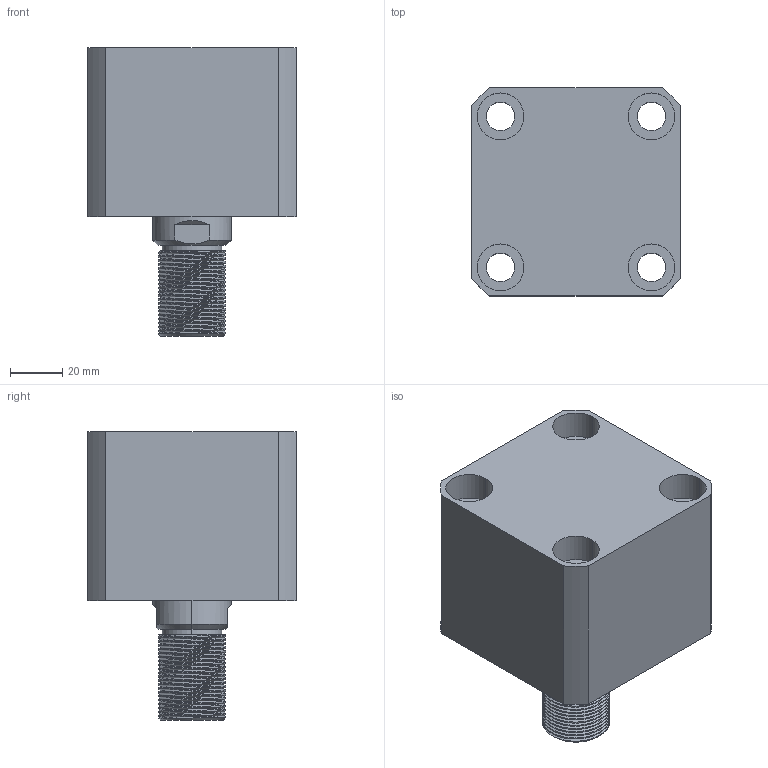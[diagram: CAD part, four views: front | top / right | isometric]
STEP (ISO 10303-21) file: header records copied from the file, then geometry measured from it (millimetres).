
FILE_DESCRIPTION (( 'STEP AP203' ), '1' );
FILE_NAME ('CHTB-SD50-5W.STEP', '2018-05-18T11:27:44', ( '' ), ( '' ), 'SwSTEP 2.0', 'SolidWorks 2015', '' );
FILE_SCHEMA (( 'CONFIG_CONTROL_DESIGN' ));
Length unit declared in the file: millimetre
Products named in the file (4): CHTM-SD50QG; 活塞杆SD50-5W; CHTB-SD50-5W; 掛极SD50-5W
Assembly tree (3 placements, depth 2):
  CHTB-SD50-5W
    掛极SD50-5W
    活塞杆SD50-5W
    CHTM-SD50QG
Bounding box: 80 x 80 x 111 mm (x, y, z)
Volume: 383414.2 mm3; surface area: 85330.6 mm2
Topology: 3 solids, 3 shells, 237 faces, 627 edges, 419 vertices
Faces by surface type: cylinder 144, plane 42, cone 19, bspline 16, torus 16
Entity records: 14527 total; most frequent: CARTESIAN_POINT 8683, ORIENTED_EDGE 1246, DIRECTION 1033, EDGE_CURVE 623, AXIS2_PLACEMENT_3D 422, VERTEX_POINT 419, EDGE_LOOP 278, FACE_OUTER_BOUND 237
